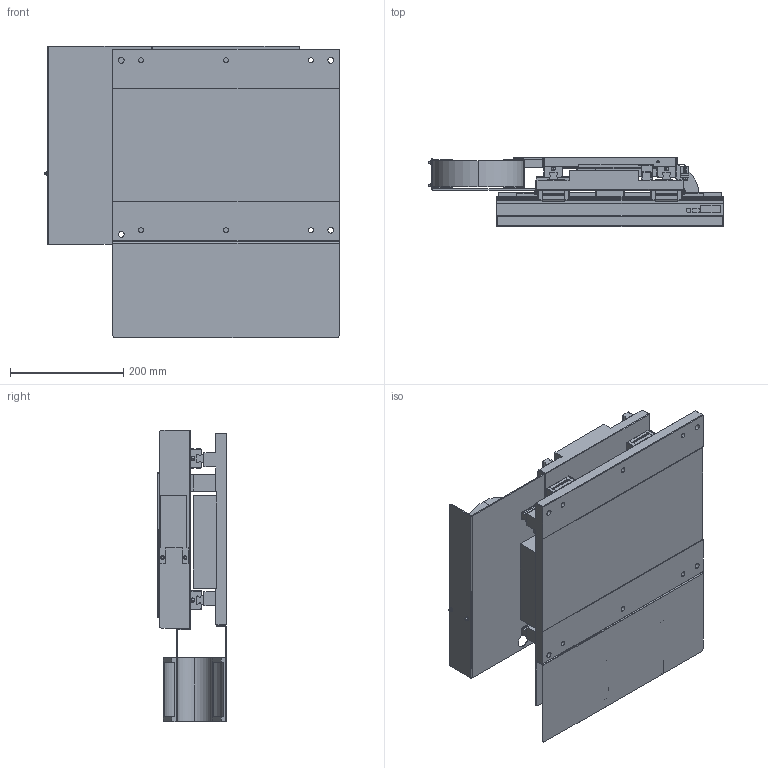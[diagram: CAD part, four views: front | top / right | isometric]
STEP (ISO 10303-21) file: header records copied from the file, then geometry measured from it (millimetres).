
FILE_DESCRIPTION (( 'STEP AP214' ), '1' );
FILE_NAME ('NST-D10B310A3BPNC_#2.00_0.STEP', '2021-03-19T07:07:55', ( '' ), ( '' ), 'SwSTEP 2.0', 'SolidWorks 2018', '' );
FILE_SCHEMA (( 'AUTOMOTIVE_DESIGN' ));
Length unit declared in the file: millimetre
Products named in the file (6): AUA01660; 19YK0000; 16UK0210; AUA01640; AUA01650; NST-D10B310A3BPNC_#2.00_0
Assembly tree (5 placements, depth 2):
  NST-D10B310A3BPNC_#2.00_0
    AUA01640
    AUA01650
    AUA01660
    19YK0000
    16UK0210
Bounding box: 520 x 122 x 515 mm (x, y, z)
Volume: 10355508.9 mm3; surface area: 1784227.9 mm2
Topology: 49 solids, 49 shells, 2007 faces, 5210 edges, 3323 vertices
Faces by surface type: plane 1504, cylinder 465, cone 18, sphere 16, bspline 4
Entity records: 81402 total; most frequent: CARTESIAN_POINT 10774, ORIENTED_EDGE 10320, DIRECTION 10109, EDGE_CURVE 5160, VECTOR 4141, LINE 4141, VERTEX_POINT 3307, AXIS2_PLACEMENT_3D 2984
